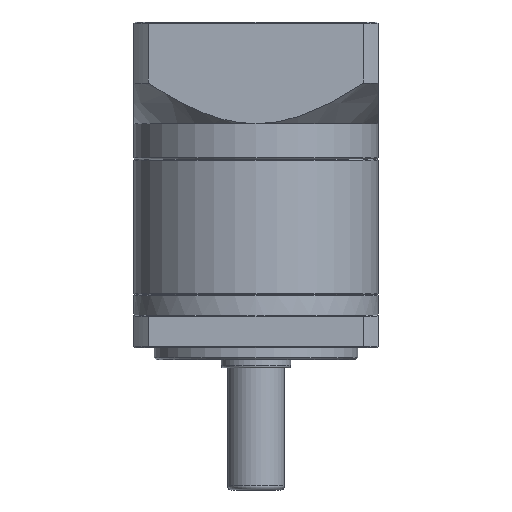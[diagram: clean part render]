
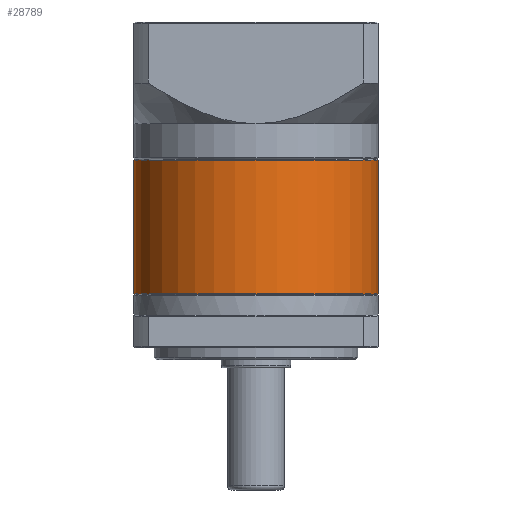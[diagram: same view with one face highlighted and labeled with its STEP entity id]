
A CAD part, front view. The second image highlights one B-rep face of the part: STEP entity #28789.
In plain terms, the highlighted cylindrical face has radius 30 mm (diameter 60 mm), a partial arc.
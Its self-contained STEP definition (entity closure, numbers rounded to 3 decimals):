
#568 = CARTESIAN_POINT ( 'NONE',  ( -38.108, 29.245, 3.439 ) ) ;
#4791 = CARTESIAN_POINT ( 'NONE',  ( -68.108, 29.245, 3.189 ) ) ;
#12222 = DIRECTION ( 'NONE',  ( 1., 0., 0. ) ) ;
#13475 = CARTESIAN_POINT ( 'NONE',  ( -98.108, 29.245, 3.189 ) ) ;
#14808 = CYLINDRICAL_SURFACE ( 'NONE', #37366, 30. ) ;
#18564 = VERTEX_POINT ( 'NONE', #28907 ) ;
#21053 = VERTEX_POINT ( 'NONE', #52456 ) ;
#24453 = DIRECTION ( 'NONE',  ( 0., 0., -1. ) ) ;
#24777 = DIRECTION ( 'NONE',  ( -1., 0., 0. ) ) ;
#27882 = EDGE_CURVE ( 'NONE', #18564, #68721, #40633, .T. ) ;
#28789 = ADVANCED_FACE ( 'NONE', ( #46069 ), #14808, .T. ) ;
#28907 = CARTESIAN_POINT ( 'NONE',  ( -38.108, 29.245, 3.189 ) ) ;
#31880 = CARTESIAN_POINT ( 'NONE',  ( -68.108, 29.245, 3.439 ) ) ;
#33729 = VECTOR ( 'NONE', #52313, 1000. ) ;
#34979 = CARTESIAN_POINT ( 'NONE',  ( -68.108, 29.245, -29.611 ) ) ;
#37366 = AXIS2_PLACEMENT_3D ( 'NONE', #31880, #24453, #24777 ) ;
#37538 = ORIENTED_EDGE ( 'NONE', *, *, #53788, .F. ) ;
#40633 = CIRCLE ( 'NONE', #78208, 30. ) ;
#41993 = VERTEX_POINT ( 'NONE', #69190 ) ;
#42392 = DIRECTION ( 'NONE',  ( 1., 0., 0. ) ) ;
#42603 = ORIENTED_EDGE ( 'NONE', *, *, #48762, .T. ) ;
#46069 = FACE_OUTER_BOUND ( 'NONE', #91171, .T. ) ;
#48762 = EDGE_CURVE ( 'NONE', #21053, #41993, #77875, .T. ) ;
#52313 = DIRECTION ( 'NONE',  ( 0., 0., -1. ) ) ;
#52456 = CARTESIAN_POINT ( 'NONE',  ( -98.108, 29.245, -29.611 ) ) ;
#53788 = EDGE_CURVE ( 'NONE', #18564, #41993, #90443, .T. ) ;
#56601 = DIRECTION ( 'NONE',  ( 0., 0., -1. ) ) ;
#60364 = ORIENTED_EDGE ( 'NONE', *, *, #65140, .T. ) ;
#60841 = DIRECTION ( 'NONE',  ( 0., 0., -1. ) ) ;
#64468 = VECTOR ( 'NONE', #60841, 1000. ) ;
#65140 = EDGE_CURVE ( 'NONE', #68721, #21053, #86502, .T. ) ;
#68721 = VERTEX_POINT ( 'NONE', #13475 ) ;
#69190 = CARTESIAN_POINT ( 'NONE',  ( -38.108, 29.245, -29.611 ) ) ;
#77875 = CIRCLE ( 'NONE', #83606, 30. ) ;
#78208 = AXIS2_PLACEMENT_3D ( 'NONE', #4791, #56601, #12222 ) ;
#83606 = AXIS2_PLACEMENT_3D ( 'NONE', #34979, #86751, #42392 ) ;
#86502 = LINE ( 'NONE', #89986, #64468 ) ;
#86751 = DIRECTION ( 'NONE',  ( 0., 0., 1. ) ) ;
#89986 = CARTESIAN_POINT ( 'NONE',  ( -98.108, 29.245, 3.439 ) ) ;
#90443 = LINE ( 'NONE', #568, #33729 ) ;
#91171 = EDGE_LOOP ( 'NONE', ( #37538, #95105, #60364, #42603 ) ) ;
#95105 = ORIENTED_EDGE ( 'NONE', *, *, #27882, .T. ) ;
